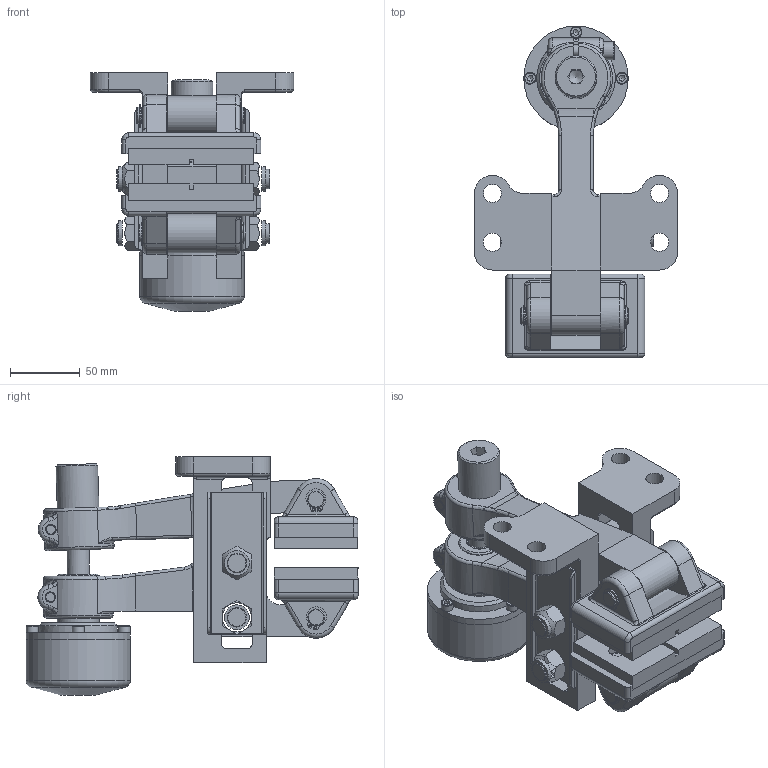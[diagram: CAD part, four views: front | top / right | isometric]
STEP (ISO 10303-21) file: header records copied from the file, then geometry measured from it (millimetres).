
FILE_DESCRIPTION(/* description */ ('','CAx-IF Rec.Pracs.---Representation and Presentation of Product Manufacturing Information (PMI)---4.0---2014-10-13'),/* implementation_level */ '2;1');
FILE_NAME(/* name */ 'X:\INVENTOR\DISEGNI\19_Pinze\STEP x Sito\PNEUM-POSITIVE\19_16_310_03 PPHP310_12,7.stp',/* time_stamp */ '2018-02-14T16:37:29+01:00',/* author */ ('stefano'),/* organization */ (''),/* preprocessor_version */ 'ST-DEVELOPER v17',/* originating_system */ 'Autodesk Inventor 2018',/* authorisation */ '');
FILE_SCHEMA (('AP242_MANAGED_MODEL_BASED_3D_ENGINEERING_MIM_LF { 1 0 10303 442 1 1 4 }'));
Length unit declared in the file: millimetre
Products named in the file (1): 19_16_310_03 PPHP310_12,7_Substitute_2
Bounding box: 146 x 238.5 x 171.35 mm (x, y, z)
Volume: 1362872.2 mm3; surface area: 194980.7 mm2
Topology: 1 solids, 1 shells, 793 faces, 2143 edges, 1369 vertices
Faces by surface type: plane 362, cylinder 216, cone 80, bspline 73, torus 61, sphere 1
Full cylindrical faces by diameter (mm): 1.7 x8, 4.917 x2, 5 x1, 6 x2, 6.5 x4, 8 x2, 8.5 x6, 9.5 x2, 10 x1, 11.445 x1, 11.5 x4, 12 x13, 13 x10, 13.5 x2, 14 x4, 16 x2, 17.85 x4, 19 x1, 22.6 x1, 30 x2, 35 x1, 56.5 x1, 75 x2
Entity records: 28285 total; most frequent: CARTESIAN_POINT 7744, ORIENTED_EDGE 4232, DIRECTION 4127, EDGE_CURVE 2116, AXIS2_PLACEMENT_3D 1570, VERTEX_POINT 1369, LINE 987, VECTOR 987
